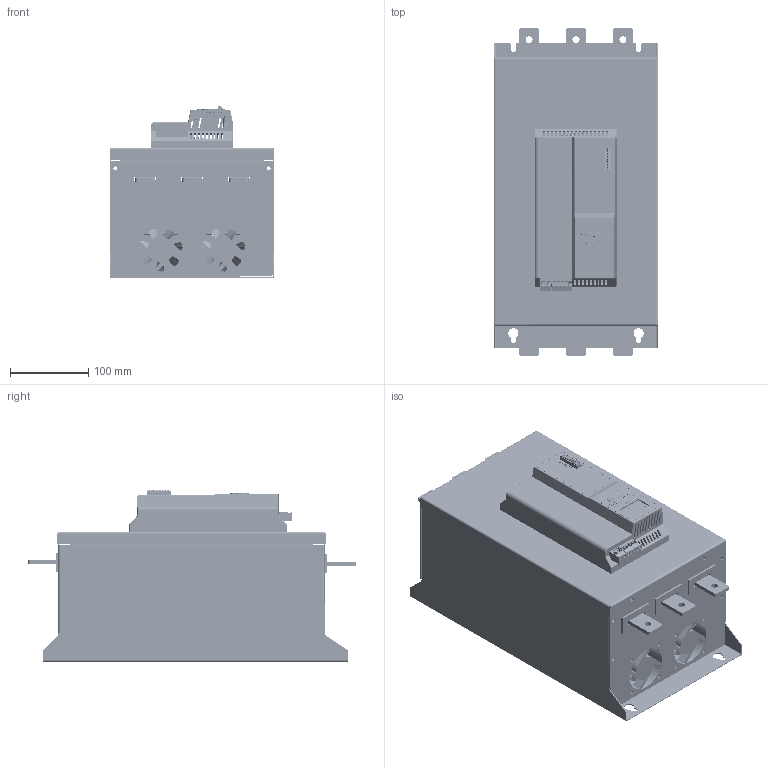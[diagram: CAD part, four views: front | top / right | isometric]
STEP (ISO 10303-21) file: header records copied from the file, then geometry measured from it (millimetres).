
FILE_DESCRIPTION(('FreeCAD Model'),'2;1');
FILE_NAME('Open CASCADE Shape Model','2026-06-18T15:25:15',(''),(''), 'Open CASCADE STEP processor 7.8','FreeCAD','Unknown');
FILE_SCHEMA(('AUTOMOTIVE_DESIGN { 1 0 10303 214 1 1 1 1 }'));
Length unit declared in the file: millimetre
Products named in the file (107): PS20-FRAME-D; 8800-90-115-000_ASM_1_ASM; 8800-90-115-00_1; 8800-90-115-0003_ASM_1_ASM; 8800-90-115-_000_1; 413F3D-250-300A0001_ASM_1_ASM; 413F3D_20201231__1; COVER-SHANG__1; DI-BAN__1; JUE-YUAN-PIANG__1; AK__1; YA-KUAI__ASM_1_ASM; ____1__1; ____2__1; YA-KUAI__ASM_1_ASM001; A__1; PRT0001__1; M__1; YIA-BAN__1; LUO-MU__1; COVER-XIA__1; 413F3D-250-300A0001_ASM_1_ASM001; YA-KUAI__ASM_1_ASM002; YA-KUAI__ASM_1_ASM003; 413F3D-250-300A0001_ASM_1_ASM002; YA-KUAI__ASM_1_ASM004; YA-KUAI__ASM_1_ASM005; 413F3D-250-300A0001_ASM_1_ASM003; YA-KUAI__ASM_1_ASM006; YA-KUAI__ASM_1_ASM007; 8800-90-115-0004_1; 6000-000_10; 8800-90-110-0001_1; 8800-90-110-0002_1_ASM; 8800-90-110-0002_1_1; 8800-90-110-0002_1_2; 8800-90-110-0002_1_3; 8800-90-110-0002_1_ASM001; 8800-90-110-0002_1_ASM002; 8800-90-110-0002_1_ASM003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
Assembly tree (254 placements, depth 6):
  PS20-FRAME-D
    8800-90-115-000_ASM_1_ASM
      8800-90-115-00_1
      8800-90-115-0003_ASM_1_ASM
        8800-90-115-_000_1
        413F3D-250-300A0001_ASM_1_ASM
          413F3D_20201231__1  x2
          COVER-SHANG__1
          DI-BAN__1
          JUE-YUAN-PIANG__1  x2
          AK__1
          YA-KUAI__ASM_1_ASM
            ____1__1
            ____2__1
          YA-KUAI__ASM_1_ASM001
            ____1__1
            ____2__1
          A__1  x2
          PRT0001__1  x2
          M__1  x4
          YIA-BAN__1  x2
          LUO-MU__1  x3
          COVER-XIA__1
        413F3D-250-300A0001_ASM_1_ASM001
          413F3D_20201231__1  x2
          COVER-SHANG__1
          DI-BAN__1
          JUE-YUAN-PIANG__1  x2
          AK__1
          YA-KUAI__ASM_1_ASM002
            ____1__1
            ____2__1
          YA-KUAI__ASM_1_ASM003
            ____1__1
            ____2__1
          A__1  x2
          PRT0001__1  x2
          M__1  x4
          YIA-BAN__1  x2
          LUO-MU__1  x3
          COVER-XIA__1
        413F3D-250-300A0001_ASM_1_ASM002
          413F3D_20201231__1  x2
          COVER-SHANG__1
          DI-BAN__1
          JUE-YUAN-PIANG__1  x2
          AK__1
          YA-KUAI__ASM_1_ASM004
            ____1__1
            ____2__1
          YA-KUAI__ASM_1_ASM005
            ____1__1
            ____2__1
          A__1  x2
          PRT0001__1  x2
          M__1  x4
          YIA-BAN__1  x2
          LUO-MU__1  x3
          COVER-XIA__1
        413F3D-250-300A0001_ASM_1_ASM003
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Bounding box: 210.5 x 419.18 x 219.7 mm (x, y, z)
Volume: 2518962 mm3; surface area: 2274094.1 mm2
Topology: 205 solids, 251 shells, 13933 faces, 37788 edges, 24719 vertices
Faces by surface type: plane 10008, cylinder 3153, cone 628, torus 74, bspline 50, sphere 18, extrusion 2
Entity records: 188950 total; most frequent: CARTESIAN_POINT 34930, ORIENTED_EDGE 29943, DIRECTION 29408, EDGE_CURVE 15508, VECTOR 12622, LINE 12620, VERTEX_POINT 10276, AXIS2_PLACEMENT_3D 8393
